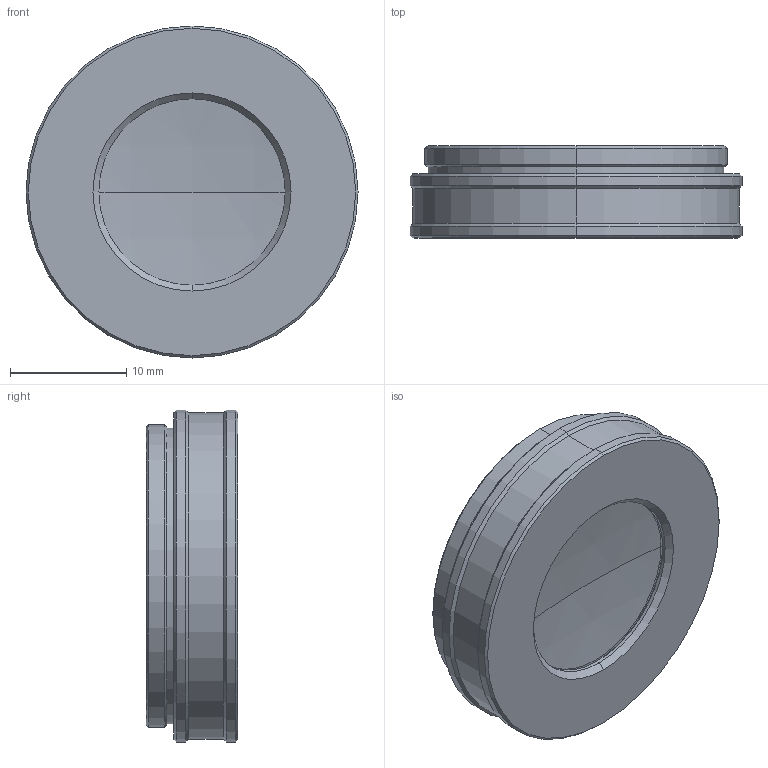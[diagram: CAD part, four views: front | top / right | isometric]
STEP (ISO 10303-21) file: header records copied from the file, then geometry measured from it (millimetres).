
FILE_DESCRIPTION (( 'STEP AP214' ), '1' );
FILE_NAME ('RK-Z83F20.STEP', '2020-05-23T01:43:01', ( '微软用户' ), ( '微软中国' ), 'SwSTEP 2.0', 'SolidWorks 2018', '' );
FILE_SCHEMA (( 'AUTOMOTIVE_DESIGN' ));
Length unit declared in the file: millimetre
Products named in the file (1): RK-Z83F20
Bounding box: 28.5 x 7.89 x 28.5 mm (x, y, z)
Volume: 4070.2 mm3; surface area: 3253.1 mm2
Topology: 3 solids, 3 shells, 87 faces, 188 edges, 113 vertices
Faces by surface type: cone 37, cylinder 26, plane 18, sphere 6
Entity records: 3398 total; most frequent: DIRECTION 463, CARTESIAN_POINT 413, ORIENTED_EDGE 376, AXIS2_PLACEMENT_3D 195, EDGE_CURVE 188, VERTEX_POINT 113, CIRCLE 107, EDGE_LOOP 97
